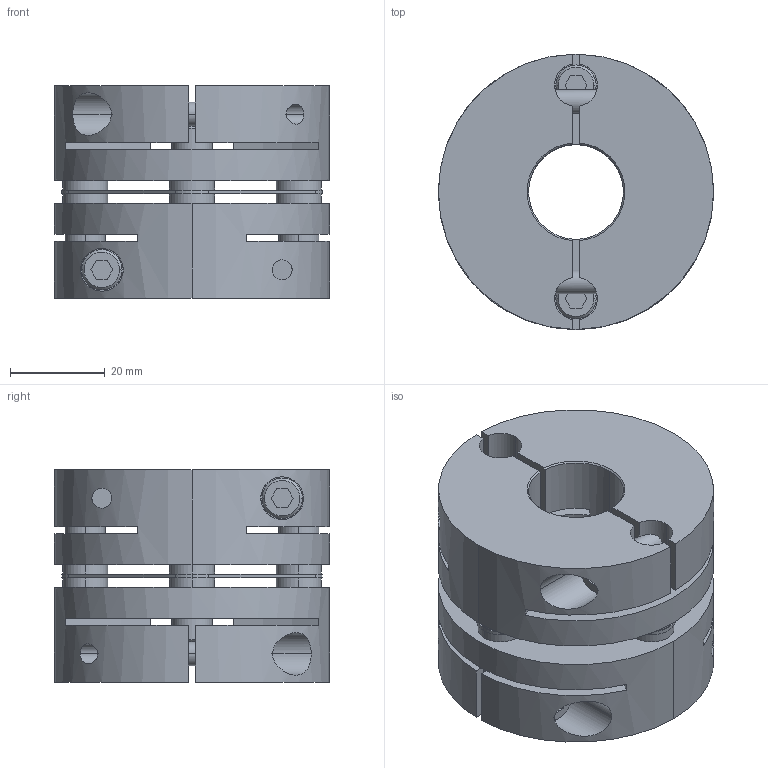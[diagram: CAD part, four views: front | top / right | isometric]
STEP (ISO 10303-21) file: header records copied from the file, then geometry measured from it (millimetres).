
FILE_DESCRIPTION((''),'2;1');
FILE_NAME('LAS-58C-20×20.stp','2011-08-09T15:37:51',(''),(''),'AutoCAD STEP 2000i','AutoCAD 2000i',', , ');
FILE_SCHEMA(('CONFIG_CONTROL_DESIGN'));
Length unit declared in the file: millimetre
Products named in the file (7): LAS-58C-19×19; 忣兜1; LA-5802-D19-1; LA-5802-D19; LA-5802-D12-1; LA-5802-D12; LAS58-ITA
Assembly tree (6 placements, depth 2):
  LAS-58C-19×19
    忣兜1
    LA-5802-D19-1
    LA-5802-D19
    LA-5802-D12-1
    LA-5802-D12
    LAS58-ITA
Bounding box: 58 x 58 x 44.8 mm (x, y, z)
Volume: 84889.7 mm3; surface area: 32652.7 mm2
Topology: 1 solids, 1 shells, 240 faces, 636 edges, 416 vertices
Faces by surface type: plane 116, cylinder 96, cone 28
Entity records: 8567 total; most frequent: CARTESIAN_POINT 2199, DIRECTION 1338, ORIENTED_EDGE 1280, EDGE_CURVE 640, AXIS2_PLACEMENT_3D 491, VERTEX_POINT 416, VECTOR 356, LINE 356
